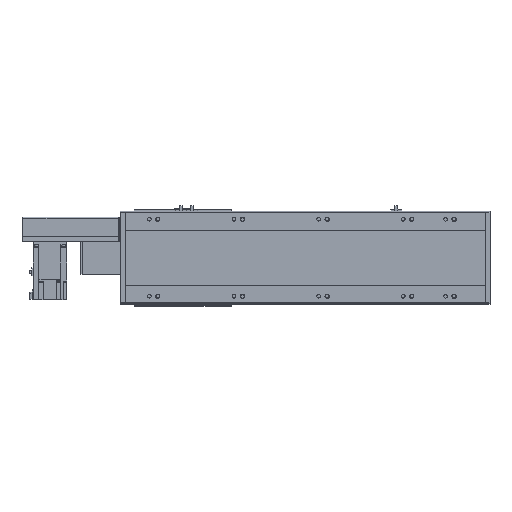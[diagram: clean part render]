
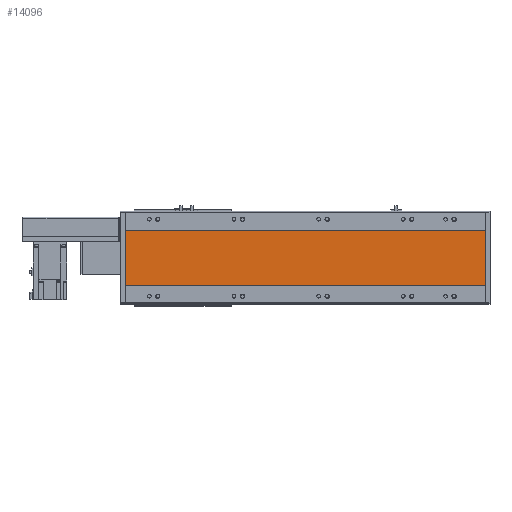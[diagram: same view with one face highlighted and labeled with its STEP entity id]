
A CAD part, front view. The second image highlights one B-rep face of the part: STEP entity #14096.
In plain terms, the highlighted planar face has unit normal (0, -1, 0).
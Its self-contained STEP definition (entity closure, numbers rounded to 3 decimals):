
#3127=ORIENTED_EDGE('',*,*,#6312,.T.);
#3128=ORIENTED_EDGE('',*,*,#6313,.F.);
#3129=ORIENTED_EDGE('',*,*,#6314,.F.);
#3130=ORIENTED_EDGE('',*,*,#6310,.T.);
#6310=EDGE_CURVE('',#8025,#8024,#9290,.T.);
#6312=EDGE_CURVE('',#8024,#8026,#9291,.T.);
#6313=EDGE_CURVE('',#8027,#8026,#9292,.T.);
#6314=EDGE_CURVE('',#8025,#8027,#9293,.T.);
#8024=VERTEX_POINT('',#23205);
#8025=VERTEX_POINT('',#23207);
#8026=VERTEX_POINT('',#23211);
#8027=VERTEX_POINT('',#23213);
#9290=LINE('',#23206,#10629);
#9291=LINE('',#23210,#10630);
#9292=LINE('',#23212,#10631);
#9293=LINE('',#23214,#10632);
#10629=VECTOR('',#18569,1000.);
#10630=VECTOR('',#18574,1000.);
#10631=VECTOR('',#18575,1000.);
#10632=VECTOR('',#18576,1000.);
#11574=EDGE_LOOP('',(#3127,#3128,#3129,#3130));
#12625=FACE_BOUND('',#11574,.T.);
#13447=PLANE('',#15370);
#14096=ADVANCED_FACE('',(#12625),#13447,.F.);
#15370=AXIS2_PLACEMENT_3D('',#23209,#18572,#18573);
#18569=DIRECTION('',(-1.,0.,0.));
#18572=DIRECTION('',(0.,1.,0.));
#18573=DIRECTION('',(0.,0.,1.));
#18574=DIRECTION('',(0.,0.,-1.));
#18575=DIRECTION('',(-1.,0.,0.));
#18576=DIRECTION('',(0.,0.,-1.));
#23205=CARTESIAN_POINT('',(12.,1.,64.294));
#23206=CARTESIAN_POINT('',(864.,1.,64.294));
#23207=CARTESIAN_POINT('',(864.,1.,64.294));
#23209=CARTESIAN_POINT('',(864.,1.,64.294));
#23210=CARTESIAN_POINT('',(12.,1.,64.294));
#23211=CARTESIAN_POINT('',(12.,1.,-64.294));
#23212=CARTESIAN_POINT('',(864.,1.,-64.294));
#23213=CARTESIAN_POINT('',(864.,1.,-64.294));
#23214=CARTESIAN_POINT('',(864.,1.,64.294));
